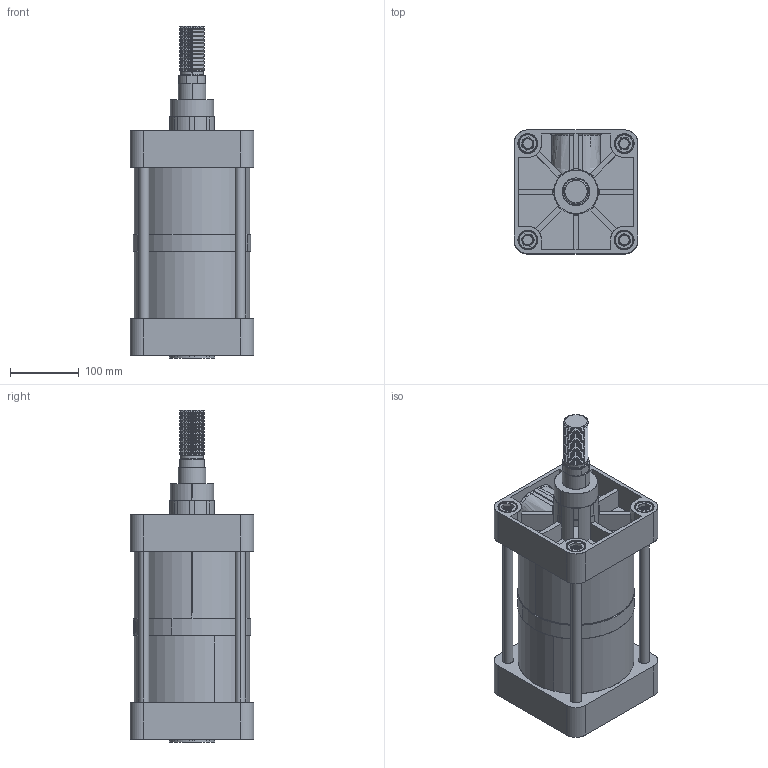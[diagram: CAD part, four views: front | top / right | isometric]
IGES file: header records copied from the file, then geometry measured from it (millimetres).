
Start section: SolidWorks IGES file using analytic representation for surfaces
Global section: file name: c:\CATALO3D\IGS\XJ160.0025TN2.IGS; native system: SolidWorks 2005 by SolidWorks Corporation; preprocessor: SolidWorks 2005 by SolidWorks Corporation; author: tania; date: 060222.164007; units: millimetre
Bounding box: 180 x 180 x 482 mm (x, y, z)
Surface area: 938371.2 mm2 (no closed solid volume)
Topology: 0 solids, 0 shells, 1653 faces, 27841 edges, 34931 vertices
Faces by surface type: revolution 1372, bspline 281
